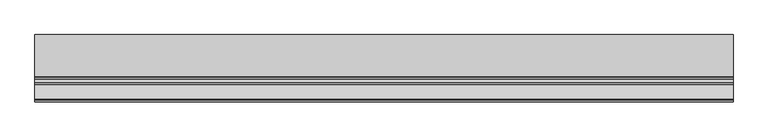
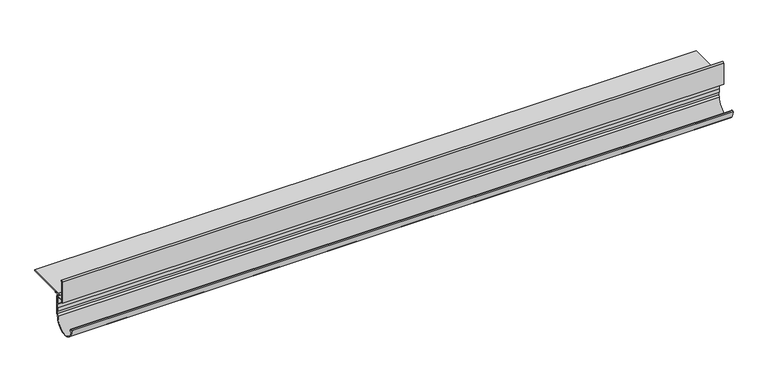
"""IFC4 building model written with IfcOpenShell, lengths in millimetres: proxy geometry, W35 Profil okapowy prosty : Renoplast."""

from ifc_helpers import new_model, si_unit, point, frame, frame_2d, origin, place, context, project, spatial, polyline, circle_curve, trimmed, segment, composite_curve, outline, extrude, source, transform, mapped, element, save
from ifc_brep_helpers import plane_surface, cylinder_surface, revolved_surface, advanced_brep


def generic_models_76c9198c(model_context):
    return source(origin(), model_context, "Body", "SolidModel", [
        extrude(outline(composite_curve([segment(polyline([(16.2735812, -80.1470817), (16.2735812, -95.1483511), (13.2279836, -98.1939486), (13.2279836, -99.2732221), (15.2042537, -98.7436822), (14.8456235, -100.0821082), (13.2966871, -100.4971445)]), True, "CONTINUOUS"), segment(trimmed(circle_curve(frame_2d((-11.7, -100.0901637)), 25.0), [point((13.2966871, -100.4971445))], [point((-36.69821, -100.3893256))], False, "CARTESIAN"), True, "CONTINUOUS"), segment(trimmed(circle_curve(frame_2d((-34.4544934, -102.0693536)), 2.8029909), [point((-36.69821, -100.3893256))], [point((-33.8823565, -99.3253752))], False, "CARTESIAN"), True, "CONTINUOUS"), segment(trimmed(circle_curve(frame_2d((-34.4544934, -102.0693536)), 2.8029909), [point((-33.8823565, -99.3253752))], [point((-35.0266303, -104.8133319))], False, "CARTESIAN"), True, "CONTINUOUS"), segment(trimmed(circle_curve(frame_2d((-11.7, -100.0901637)), 23.8), [point((-35.0266303, -104.8133319))], [point((11.9837886, -97.7410874))], True, "CARTESIAN"), True, "CONTINUOUS"), segment(polyline([(11.9837886, -97.7410874), (15.0771553, -94.6477207), (15.0771553, -78.1458102), (13.5916529, -78.1458102), (13.5916529, -80.1470817), (12.5916529, -80.1470817), (12.5916529, -71.8647019), (13.5916529, -71.8647019), (13.5916529, -73.8652393), (15.0771553, -73.8652393), (15.0771553, -56.0), (16.2735812, -56.0), (16.2735812, -71.8647019), (17.3, -71.8647019), (17.3, -80.1470817), (16.2735812, -80.1470817)]), True, "CONTINUOUS")], self_intersect=False)), frame((0.0, 0.0, 0.0), z_axis=(1.0, 0.0, 0.0), x_axis=(0.0, 1.0, 0.0)), (0.0, 0.0, 1.0), 1366.5322378),
        advanced_brep(
        [(0.0, -0.0010677, -12.3), (0.0, -0.0010677, -14.1358001), (0.0, -1.0010677, -15.1358001), (0.0, -1.0010677, -53.6212515), (0.0, 13.1366439, -53.6212515), (0.0, 13.1366439, -48.8260527), (0.0, 11.3457599, -48.8260527), (0.0, 9.9454403, -50.1551438), (0.0, 8.4435317, -50.1551438), (0.0, 11.0612599, -47.3), (0.0, 95.0989323, -47.3), (0.0, 95.0989323, -48.8260527), (0.0, 21.5989323, -48.8260527), (0.0, 21.5989323, -51.8230238), (0.0, 20.0989323, -51.8230238), (0.0, 20.0989323, -48.8260527), (0.0, 15.0989323, -48.8260527), (0.0, 15.0989323, -88.5), (0.0, 13.5989323, -88.5), (0.0, 13.5989323, -55.1212515), (0.0, 10.049712, -55.1212515), (0.0, 8.5231229, -56.6478406), (0.0, 8.5231229, -55.1212515), (0.0, -1.0010677, -55.1212515), (0.0, -1.0010677, -59.3464967), (0.0, -2.5010677, -60.5974817), (0.0, -2.5010677, -15.1358001), (1366.5322378, -0.0010677, -12.3), (1366.5322378, -2.5010677, -15.1358001), (1366.5322378, -2.5010677, -60.5974817), (1366.5322378, -1.0010677, -59.3464967), (1366.5322378, -1.0010677, -55.1212515), (1366.5322378, 8.5231229, -55.1212515), (1366.5322378, 8.5231229, -56.6478406), (1366.5322378, 10.049712, -55.1212515), (1366.5322378, 13.5989323, -55.1212515), (1366.5322378, 13.5989323, -88.5), (1366.5322378, 15.0989323, -88.5), (1366.5322378, 15.0989323, -48.8260527), (1366.5322378, 20.0989323, -48.8260527), (1366.5322378, 20.0989323, -51.8230238), (1366.5322378, 21.5989323, -51.8230238), (1366.5322378, 21.5989323, -48.8260527), (1366.5322378, 95.0989323, -48.8260527), (1366.5322378, 95.0989323, -47.3), (1366.5322378, 11.0612599, -47.3), (1366.5322378, 8.4435317, -50.1427162), (1366.5322378, 9.9454403, -50.1551438), (1366.5322378, 11.3457599, -48.8260527), (1366.5322378, 13.1366439, -48.8260527), (1366.5322378, 13.1366439, -53.6212515), (1366.5322378, -1.0010677, -53.6212515), (1366.5322378, -1.0010677, -15.1358001), (1366.5322378, -0.0010677, -14.1358001)],
        [
            (0, 1),
            (1, 2, circle_curve(frame((0.0, -0.0010677, -15.1358001), z_axis=(1.0, 0.0, 0.0), x_axis=(0.0, -1.0, 0.0)), 1.0)),
            (2, 3),
            (3, 4),
            (4, 5),
            (5, 6),
            (6, 7, circle_curve(frame((0.0, 11.3457599, -50.2282809), z_axis=(1.0, 0.0, 0.0), x_axis=(0.0, 1.0, 0.0)), 1.4022282)),
            (7, 8),
            (8, 9, circle_curve(frame((0.0, 11.0612599, -49.9266316), z_axis=(-1.0, 0.0, 0.0), x_axis=(0.0, 1.0, 0.0)), 2.6266316)),
            (9, 10),
            (10, 11),
            (11, 12),
            (12, 13),
            (13, 14),
            (14, 15),
            (15, 16),
            (16, 17),
            (17, 18),
            (18, 19),
            (19, 20),
            (20, 21),
            (21, 22),
            (22, 23),
            (23, 24),
            (24, 25),
            (25, 26),
            (26, 0, circle_curve(frame((0.0, 0.4087938, -15.1812097), z_axis=(-1.0, 0.0, 0.0), x_axis=(0.0, -1.0, 0.0)), 2.9102158)),
            (27, 28, circle_curve(frame((1366.5322378, 0.4087938, -15.1812097), z_axis=(1.0, 0.0, 0.0), x_axis=(0.0, -1.0, 0.0)), 2.9102158)),
            (28, 29),
            (29, 30),
            (30, 31),
            (31, 32),
            (32, 33),
            (33, 34),
            (34, 35),
            (35, 36),
            (36, 37),
            (37, 38),
            (38, 39),
            (39, 40),
            (40, 41),
            (41, 42),
            (42, 43),
            (43, 44),
            (44, 45),
            (45, 46, circle_curve(frame((1366.5322378, 11.0612599, -49.9266316), z_axis=(1.0, 0.0, 0.0), x_axis=(0.0, 1.0, 0.0)), 2.6266316)),
            (46, 47),
            (47, 48, circle_curve(frame((1366.5322378, 11.3457599, -50.2282809), z_axis=(-1.0, 0.0, 0.0), x_axis=(0.0, 1.0, 0.0)), 1.4022282)),
            (48, 49),
            (49, 50),
            (50, 51),
            (51, 52),
            (52, 53, circle_curve(frame((1366.5322378, -0.0010677, -15.1358001), z_axis=(-1.0, 0.0, 0.0), x_axis=(0.0, -1.0, 0.0)), 1.0)),
            (53, 27),
            (0, 27),
            (53, 1),
            (52, 2),
            (51, 3),
            (50, 4),
            (49, 5),
            (48, 6),
            (47, 7),
            (46, 8),
            (45, 9),
            (44, 10),
            (43, 11),
            (42, 12),
            (41, 13),
            (40, 14),
            (39, 15),
            (38, 16),
            (37, 17),
            (36, 18),
            (35, 19),
            (34, 20),
            (33, 21),
            (32, 22),
            (31, 23),
            (30, 24),
            (29, 25),
            (28, 26),
        ],
        [
            plane_surface(frame((0.0, 0.0, 0.0), z_axis=(-1.0, 0.0, 0.0), x_axis=(0.0, 0.0, 1.0))),
            plane_surface(frame((1366.5322378, 0.0, 0.0), z_axis=(1.0, 0.0, 0.0), x_axis=(0.0, 0.0, 1.0))),
            plane_surface(frame((0.0, -0.0010677, -12.3), z_axis=(0.0, 1.0, 0.0), x_axis=(1.0, 0.0, 0.0))),
            revolved_surface(polyline([(1366.5322378, -1.0010677, -15.1358001), (0.0, -1.0010677, -15.1358001)]), (0.0, -0.0010677, -15.1358001), (1.0, 0.0, 0.0)),
            plane_surface(frame((0.0, -1.0010677, -15.1358001), z_axis=(0.0, 1.0, 0.0), x_axis=(1.0, 0.0, 0.0))),
            plane_surface(frame((0.0, 7.7310535, -53.6212515), z_axis=(0.0, 0.0, 1.0), x_axis=(1.0, 0.0, 0.0))),
            plane_surface(frame((0.0, 13.1366439, -53.6212515), z_axis=(0.0, -1.0, 0.0), x_axis=(1.0, 0.0, 0.0))),
            plane_surface(frame((0.0, 13.1366439, -48.8260527), z_axis=(0.0, 0.0, -1.0), x_axis=(1.0, 0.0, 0.0))),
            revolved_surface(polyline([(1366.5322378, 12.747988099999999, -50.2282809), (0.0, 12.747988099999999, -50.2282809)]), (0.0, 11.3457599, -50.2282809), (1.0, 0.0, 0.0)),
            plane_surface(frame((0.0, 9.9454403, -50.1551438), z_axis=(0.0, 0.0, -1.0), x_axis=(1.0, 0.0, 0.0))),
            cylinder_surface(frame((0.0, 11.0612599, -49.9266316), z_axis=(-1.0, 0.0, 0.0), x_axis=(0.0, 1.0, 0.0)), 2.6266316),
            plane_surface(frame((0.0, 11.0612599, -47.3), z_axis=(0.0, 0.0, 1.0), x_axis=(1.0, 0.0, 0.0))),
            plane_surface(frame((0.0, 95.0989323, -47.3), z_axis=(0.0, 1.0, 0.0), x_axis=(1.0, 0.0, 0.0))),
            plane_surface(frame((0.0, 95.0989323, -48.8260527), z_axis=(0.0, 0.0, -1.0), x_axis=(1.0, 0.0, 0.0))),
            plane_surface(frame((0.0, 21.5989323, -48.8260527), z_axis=(0.0, 1.0, 0.0), x_axis=(1.0, 0.0, 0.0))),
            plane_surface(frame((0.0, 21.5989323, -51.8230238), z_axis=(0.0, 0.0, -1.0), x_axis=(1.0, 0.0, 0.0))),
            plane_surface(frame((0.0, 20.0989323, -51.8230238), z_axis=(0.0, -1.0, 0.0), x_axis=(1.0, 0.0, 0.0))),
            plane_surface(frame((0.0, 20.0989323, -48.8260527), z_axis=(0.0, 0.0, -1.0), x_axis=(1.0, 0.0, 0.0))),
            plane_surface(frame((0.0, 15.0989323, -48.8260527), z_axis=(0.0, 1.0, 0.0), x_axis=(1.0, 0.0, 0.0))),
            plane_surface(frame((0.0, 15.0989323, -88.5), z_axis=(0.0, 0.0, -1.0), x_axis=(1.0, 0.0, 0.0))),
            plane_surface(frame((0.0, 13.5989323, -88.5), z_axis=(0.0, -1.0, 0.0), x_axis=(1.0, 0.0, 0.0))),
            plane_surface(frame((0.0, 13.5989323, -55.1212515), z_axis=(0.0, 0.0, -1.0), x_axis=(1.0, 0.0, 0.0))),
            plane_surface(frame((0.0, 10.049712, -55.1212515), z_axis=(0.0, 0.7071067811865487, -0.7071067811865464), x_axis=(1.0, 0.0, 0.0))),
            plane_surface(frame((0.0, 8.5231229, -56.6478406), z_axis=(0.0, -1.0, 0.0), x_axis=(1.0, 0.0, 0.0))),
            plane_surface(frame((0.0, 0.0, -55.1212515), z_axis=(0.0, 0.0, -1.0), x_axis=(1.0, 0.0, 0.0))),
            plane_surface(frame((0.0, -1.0010677, -55.1212515), z_axis=(0.0, 1.0, 0.0), x_axis=(1.0, 0.0, 0.0))),
            plane_surface(frame((0.0, -1.0010677, -59.3464967), z_axis=(0.0, 0.6404819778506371, -0.767973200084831), x_axis=(1.0, 0.0, 0.0))),
            plane_surface(frame((0.0, -2.5010677, -60.5974817), z_axis=(0.0, -1.0, 0.0), x_axis=(1.0, 0.0, 0.0))),
            cylinder_surface(frame((0.0, 0.4087938, -15.1812097), z_axis=(-1.0, 0.0, 0.0), x_axis=(0.0, -1.0, 0.0)), 2.9102158),
        ],
        [
            (0, [[1, 2, 3, 4, 5, 6, 7, 8, 9, 10, 11, 12, 13, 14, 15, 16, 17, 18, 19, 20, 21, 22, 23, 24, 25, 26, 27]]),
            (1, [[28, 29, 30, 31, 32, 33, 34, 35, 36, 37, 38, 39, 40, 41, 42, 43, 44, 45, 46, 47, 48, 49, 50, 51, 52, 53, 54]]),
            (2, [[-1, 55, -54, 56]]),
            (3, [[-2, -56, -53, 57]]),
            (4, [[-3, -57, -52, 58]]),
            (5, [[-58, -51, 59, -4]]),
            (6, [[-5, -59, -50, 60]]),
            (7, [[-6, -60, -49, 61]]),
            (8, [[-7, -61, -48, 62]]),
            (9, [[-8, -62, -47, 63]]),
            (10, [[-9, -63, -46, 64]]),
            (11, [[-10, -64, -45, 65]]),
            (12, [[-11, -65, -44, 66]]),
            (13, [[-12, -66, -43, 67]]),
            (14, [[-13, -67, -42, 68]]),
            (15, [[-14, -68, -41, 69]]),
            (16, [[-15, -69, -40, 70]]),
            (17, [[-16, -70, -39, 71]]),
            (18, [[-17, -71, -38, 72]]),
            (19, [[-18, -72, -37, 73]]),
            (20, [[-19, -73, -36, 74]]),
            (21, [[-20, -74, -35, 75]]),
            (22, [[-21, -75, -34, 76]]),
            (23, [[-22, -76, -33, 77]]),
            (24, [[-77, -32, 78, -23]]),
            (25, [[-24, -78, -31, 79]]),
            (26, [[-25, -79, -30, 80]]),
            (27, [[-26, -80, -29, 81]]),
            (28, [[-27, -81, -28, -55]]),
        ],
    ),
    ])


if __name__ == "__main__":
    model = new_model("IFC4")
    model_context = context("Model", 3, world=origin())
    ifc_project = project(units=[si_unit("LENGTHUNIT", "METRE", prefix="MILLI")], contexts=[model_context])
    site = spatial("IfcSite", under=ifc_project)
    building = spatial("IfcBuilding", under=site)
    placement = place(None, origin())
    generic_models_shape = generic_models_76c9198c(model_context)
    element("IfcBuildingElementProxy", 1, Name="W35 Profil okapowy prosty : Renoplast", ObjectType="W35 Profil okapowy prosty : Renoplast", at=placement, inside=building, context=model_context, shape_type="MappedRepresentation", body=[
        mapped(generic_models_shape, transform((0.0, 0.0, 0.0), x_axis=(1.0, 0.0, 0.0), y_axis=(0.0, 1.0, 0.0), z_axis=(0.0, 0.0, 1.0))),
    ])
    save(model, "model.ifc")
